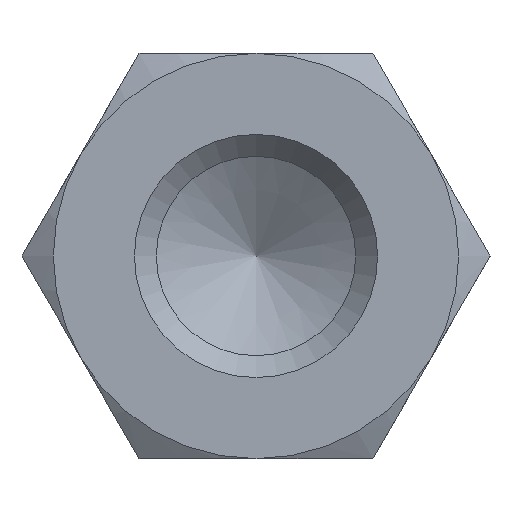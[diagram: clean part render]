
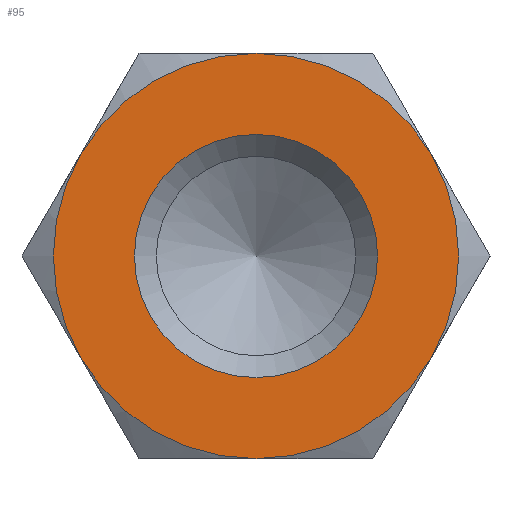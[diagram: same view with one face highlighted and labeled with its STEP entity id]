
A CAD part, left-side view. The second image highlights one B-rep face of the part: STEP entity #95.
In plain terms, the highlighted planar face has unit normal (-1, 0, 0).
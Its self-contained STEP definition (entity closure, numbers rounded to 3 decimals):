
#95 = ADVANCED_FACE( '', ( #147, #148 ), #149, .F. );
#147 = FACE_OUTER_BOUND( '', #206, .T. );
#148 = FACE_BOUND( '', #207, .T. );
#149 = PLANE( '', #208 );
#206 = EDGE_LOOP( '', ( #356, #357, #358, #359, #360, #361 ) );
#207 = EDGE_LOOP( '', ( #362 ) );
#208 = AXIS2_PLACEMENT_3D( '', #363, #364, #365 );
#356 = ORIENTED_EDGE( '', *, *, #440, .F. );
#357 = ORIENTED_EDGE( '', *, *, #425, .F. );
#358 = ORIENTED_EDGE( '', *, *, #441, .F. );
#359 = ORIENTED_EDGE( '', *, *, #437, .F. );
#360 = ORIENTED_EDGE( '', *, *, #442, .F. );
#361 = ORIENTED_EDGE( '', *, *, #443, .F. );
#362 = ORIENTED_EDGE( '', *, *, #439, .T. );
#363 = CARTESIAN_POINT( '', ( -15., 0., 0. ) );
#364 = DIRECTION( '', ( 1., 0., 0. ) );
#365 = DIRECTION( '', ( 0., 0., -1. ) );
#425 = EDGE_CURVE( '', #495, #493, #497, .T. );
#437 = EDGE_CURVE( '', #447, #506, #513, .T. );
#439 = EDGE_CURVE( '', #516, #516, #517, .T. );
#440 = EDGE_CURVE( '', #493, #486, #518, .T. );
#441 = EDGE_CURVE( '', #506, #495, #519, .T. );
#442 = EDGE_CURVE( '', #481, #447, #520, .T. );
#443 = EDGE_CURVE( '', #486, #481, #521, .T. );
#447 = VERTEX_POINT( '', #525 );
#481 = VERTEX_POINT( '', #601 );
#486 = VERTEX_POINT( '', #617 );
#493 = VERTEX_POINT( '', #642 );
#495 = VERTEX_POINT( '', #647 );
#497 = CIRCLE( '', #654, 5. );
#506 = VERTEX_POINT( '', #680 );
#513 = CIRCLE( '', #717, 5. );
#516 = VERTEX_POINT( '', #720 );
#517 = CIRCLE( '', #721, 3. );
#518 = CIRCLE( '', #722, 5. );
#519 = CIRCLE( '', #723, 5. );
#520 = CIRCLE( '', #724, 5. );
#521 = CIRCLE( '', #725, 5. );
#525 = CARTESIAN_POINT( '', ( -15., -4.33, 2.5 ) );
#601 = CARTESIAN_POINT( '', ( -15., 0., 5. ) );
#617 = CARTESIAN_POINT( '', ( -15., 4.33, 2.5 ) );
#642 = CARTESIAN_POINT( '', ( -15., 4.33, -2.5 ) );
#647 = CARTESIAN_POINT( '', ( -15., 0., -5. ) );
#654 = AXIS2_PLACEMENT_3D( '', #760, #761, #762 );
#680 = CARTESIAN_POINT( '', ( -15., -4.33, -2.5 ) );
#717 = AXIS2_PLACEMENT_3D( '', #765, #766, #767 );
#720 = CARTESIAN_POINT( '', ( -15., 0., -3. ) );
#721 = AXIS2_PLACEMENT_3D( '', #771, #772, #773 );
#722 = AXIS2_PLACEMENT_3D( '', #774, #775, #776 );
#723 = AXIS2_PLACEMENT_3D( '', #777, #778, #779 );
#724 = AXIS2_PLACEMENT_3D( '', #780, #781, #782 );
#725 = AXIS2_PLACEMENT_3D( '', #783, #784, #785 );
#760 = CARTESIAN_POINT( '', ( -15., 0., 0. ) );
#761 = DIRECTION( '', ( 1., 0., 0. ) );
#762 = DIRECTION( '', ( 0., 0., -1. ) );
#765 = CARTESIAN_POINT( '', ( -15., 0., 0. ) );
#766 = DIRECTION( '', ( 1., 0., 0. ) );
#767 = DIRECTION( '', ( 0., 0., -1. ) );
#771 = CARTESIAN_POINT( '', ( -15., 0., 0. ) );
#772 = DIRECTION( '', ( 1., 0., 0. ) );
#773 = DIRECTION( '', ( 0., 0., -1. ) );
#774 = CARTESIAN_POINT( '', ( -15., 0., 0. ) );
#775 = DIRECTION( '', ( 1., 0., 0. ) );
#776 = DIRECTION( '', ( 0., 0., -1. ) );
#777 = CARTESIAN_POINT( '', ( -15., 0., 0. ) );
#778 = DIRECTION( '', ( 1., 0., 0. ) );
#779 = DIRECTION( '', ( 0., 0., -1. ) );
#780 = CARTESIAN_POINT( '', ( -15., 0., 0. ) );
#781 = DIRECTION( '', ( 1., 0., 0. ) );
#782 = DIRECTION( '', ( 0., 0., -1. ) );
#783 = CARTESIAN_POINT( '', ( -15., 0., 0. ) );
#784 = DIRECTION( '', ( 1., 0., 0. ) );
#785 = DIRECTION( '', ( 0., 0., -1. ) );
